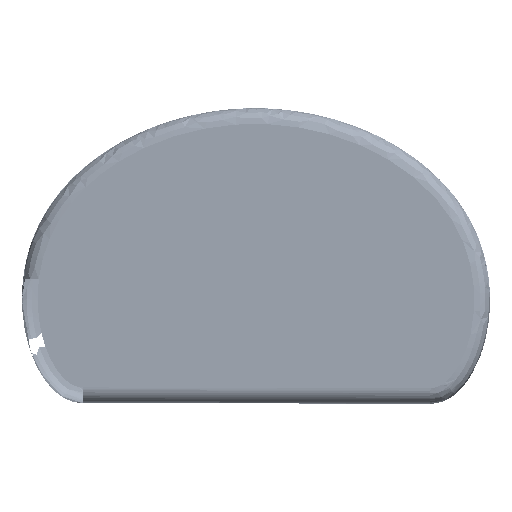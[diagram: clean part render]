
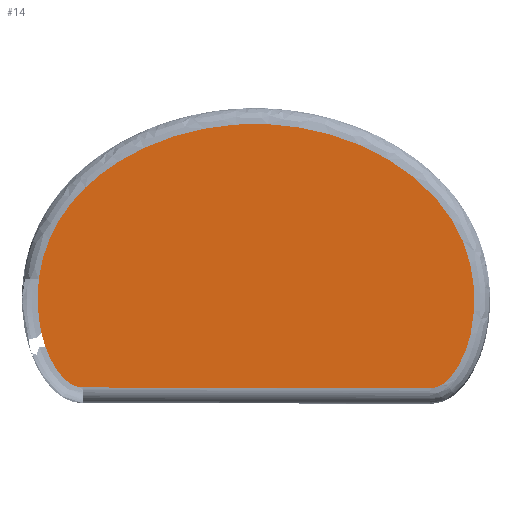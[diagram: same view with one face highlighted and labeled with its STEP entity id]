
A CAD part, left-side view. The second image highlights one B-rep face of the part: STEP entity #14.
In plain terms, the highlighted planar face has unit normal (-1, 0, 0).
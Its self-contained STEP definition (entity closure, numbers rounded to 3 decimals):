
#14=ADVANCED_FACE('',(#25),#151,.T.);
#25=FACE_OUTER_BOUND('',#36,.T.);
#36=EDGE_LOOP('',(#47,#48,#49));
#47=ORIENTED_EDGE('',*,*,#98,.F.);
#48=ORIENTED_EDGE('',*,*,#94,.F.);
#49=ORIENTED_EDGE('',*,*,#100,.F.);
#94=EDGE_CURVE('',#135,#136,#115,.T.);
#98=EDGE_CURVE('',#136,#134,#119,.T.);
#100=EDGE_CURVE('',#134,#135,#121,.T.);
#115=(
BOUNDED_CURVE()
B_SPLINE_CURVE(2,(#650,#651,#652),.UNSPECIFIED.,.F.,.F.)
B_SPLINE_CURVE_WITH_KNOTS((3,3),(0.,21.124),.UNSPECIFIED.)
CURVE()
GEOMETRIC_REPRESENTATION_ITEM()
RATIONAL_B_SPLINE_CURVE((1.,0.939,1.))
REPRESENTATION_ITEM('')
);
#119=(
BOUNDED_CURVE()
B_SPLINE_CURVE(1,(#661,#662),.UNSPECIFIED.,.F.,.F.)
B_SPLINE_CURVE_WITH_KNOTS((2,2),(0.,444.348),
 .UNSPECIFIED.)
CURVE()
GEOMETRIC_REPRESENTATION_ITEM()
RATIONAL_B_SPLINE_CURVE((1.,1.))
REPRESENTATION_ITEM('')
);
#121=(
BOUNDED_CURVE()
B_SPLINE_CURVE(3,(#666,#667,#668,#669,#670,#671,#672,#673,#674,#675,#676,
#677,#678,#679,#680,#681,#682,#683,#684,#685,#686,#687,#688,#689,#690,#691,
#692,#693,#694,#695,#696,#697,#698,#699,#700,#701,#702,#703,#704),
 .UNSPECIFIED.,.F.,.F.)
B_SPLINE_CURVE_WITH_KNOTS((4,3,3,1,3,1,1,1,1,1,1,1,1,1,1,1,1,3,1,1,1,1,
1,3,1,1,4),(0.,21.234,47.809,80.583,
137.566,189.742,221.228,252.715,284.52,
316.325,369.915,423.504,479.842,536.181,
592.597,649.013,702.801,756.59,788.543,
820.497,852.098,883.699,909.819,935.938,
992.841,1026.004,1051.676),.UNSPECIFIED.)
CURVE()
GEOMETRIC_REPRESENTATION_ITEM()
RATIONAL_B_SPLINE_CURVE((1.,1.,1.,1.,1.,1.,1.,1.,
1.,1.,1.,1.,1.,1.,1.,1.,1.,
1.,1.,1.,1.,1.,1.,1.,1.,1.,
1.,1.,1.,1.,1.,1.,1.,1.,1.,
1.,1.,1.,1.))
REPRESENTATION_ITEM('')
);
#134=VERTEX_POINT('',#595);
#135=VERTEX_POINT('',#596);
#136=VERTEX_POINT('',#597);
#151=PLANE('',#242);
#242=AXIS2_PLACEMENT_3D('',#260,#251,$);
#251=DIRECTION('',(-1.,0.,0.));
#260=CARTESIAN_POINT('',(0.,75.222,425.814));
#595=CARTESIAN_POINT('',(0.,-78.032,20.468));
#596=CARTESIAN_POINT('',(0.,-541.816,26.625));
#597=CARTESIAN_POINT('',(0.,-522.379,19.531));
#650=CARTESIAN_POINT('',(0.,-541.816,26.625));
#651=CARTESIAN_POINT('',(0.,-533.401,19.508));
#652=CARTESIAN_POINT('',(0.,-522.379,19.531));
#661=CARTESIAN_POINT('',(0.,-522.379,19.531));
#662=CARTESIAN_POINT('',(0.,-78.032,20.468));
#666=CARTESIAN_POINT('',(0.,-78.032,20.468));
#667=CARTESIAN_POINT('',(0.,-70.947,20.462));
#668=CARTESIAN_POINT('',(0.,-63.901,23.082));
#669=CARTESIAN_POINT('',(0.,-58.542,27.716));
#670=CARTESIAN_POINT('',(0.,-51.822,33.488));
#671=CARTESIAN_POINT('',(0.,-46.014,40.319));
#672=CARTESIAN_POINT('',(0.,-41.4,47.881));
#673=CARTESIAN_POINT('',(0.,-35.708,57.219));
#674=CARTESIAN_POINT('',(0.,-23.91,84.925));
#675=CARTESIAN_POINT('',(0.,-19.843,114.932));
#676=CARTESIAN_POINT('',(0.,-19.78,133.908));
#677=CARTESIAN_POINT('',(0.,-19.738,151.293));
#678=CARTESIAN_POINT('',(0.,-23.114,179.229));
#679=CARTESIAN_POINT('',(0.,-36.114,215.502));
#680=CARTESIAN_POINT('',(0.,-51.657,243.125));
#681=CARTESIAN_POINT('',(0.,-71.448,268.008));
#682=CARTESIAN_POINT('',(0.,-99.965,294.845));
#683=CARTESIAN_POINT('',(0.,-138.763,320.572));
#684=CARTESIAN_POINT('',(0.,-189.01,342.172));
#685=CARTESIAN_POINT('',(0.,-243.005,355.466));
#686=CARTESIAN_POINT('',(0.,-299.374,360.001));
#687=CARTESIAN_POINT('',(0.,-355.752,355.22));
#688=CARTESIAN_POINT('',(0.,-409.802,341.686));
#689=CARTESIAN_POINT('',(0.,-460.133,319.862));
#690=CARTESIAN_POINT('',(0.,-490.111,299.892));
#691=CARTESIAN_POINT('',(0.,-503.909,288.436));
#692=CARTESIAN_POINT('',(0.,-512.103,281.631));
#693=CARTESIAN_POINT('',(0.,-527.639,266.987));
#694=CARTESIAN_POINT('',(0.,-547.522,242.007));
#695=CARTESIAN_POINT('',(0.,-563.175,214.296));
#696=CARTESIAN_POINT('',(0.,-573.32,186.19));
#697=CARTESIAN_POINT('',(0.,-578.698,158.7));
#698=CARTESIAN_POINT('',(0.,-579.775,141.285));
#699=CARTESIAN_POINT('',(0.,-579.789,132.578));
#700=CARTESIAN_POINT('',(0.,-579.789,113.626));
#701=CARTESIAN_POINT('',(0.,-575.806,83.51));
#702=CARTESIAN_POINT('',(0.,-560.626,47.744));
#703=CARTESIAN_POINT('',(0.,-548.352,32.178));
#704=CARTESIAN_POINT('',(0.,-541.816,26.625));
